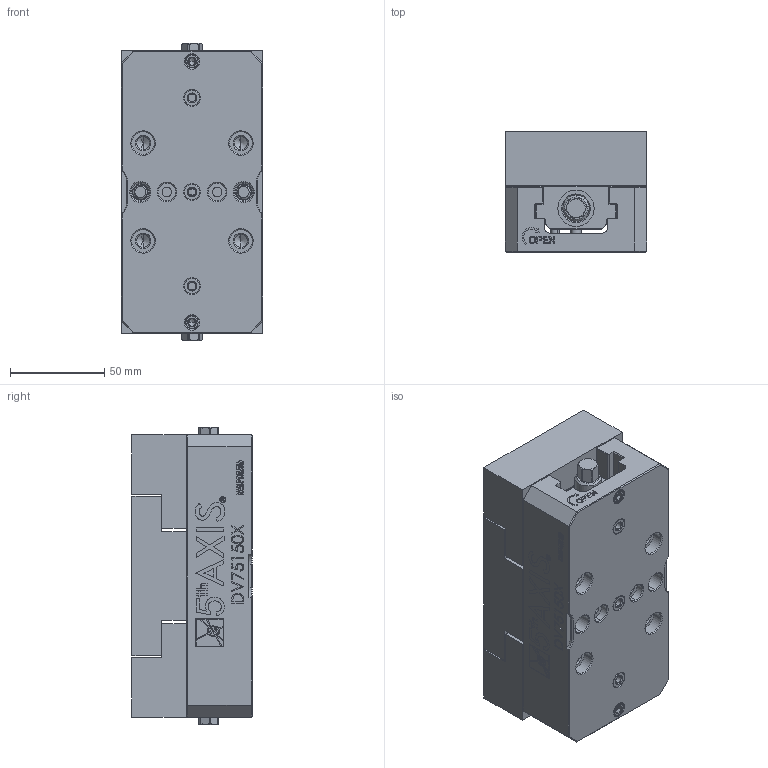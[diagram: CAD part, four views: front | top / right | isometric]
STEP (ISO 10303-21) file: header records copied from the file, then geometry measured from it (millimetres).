
FILE_DESCRIPTION (( 'STEP AP214' ), '1' );
FILE_NAME ('DV75150X-J2.STEP', '2019-05-06T17:21:26', ( '' ), ( '' ), 'SwSTEP 2.0', 'SolidWorks 2018', '' );
FILE_SCHEMA (( 'AUTOMOTIVE_DESIGN' ));
Length unit declared in the file: millimetre
Products named in the file (15): 0625X0625.DB_8491A358; V75150X-4; V75100X-2R_V75100X-2R; V75100X-2L_V75100X-2L; 01875.FP; V75150X-1_V75150X; DV75150X-J2; 76232_HK.76232; VAJ-DV75150-M; VAJ-DV75150-F; 76252_91290A210; C06-024-016_9657K267; M5x10.DP_HW.M5X10.DP; TIM-34_TIM-34; M8X12.EPSS_92905A312
Assembly tree (24 placements, depth 2):
  DV75150X-J2
    V75150X-1_V75150X
    01875.FP
    V75100X-2L_V75100X-2L
    V75100X-2R_V75100X-2R
    V75150X-4
    0625X0625.DB_8491A358  x2
    M8X12.EPSS_92905A312  x2
    TIM-34_TIM-34  x3
    M5x10.DP_HW.M5X10.DP  x2
    C06-024-016_9657K267
    76252_91290A210  x2
    VAJ-DV75150-F
    VAJ-DV75150-M  x2
    76232_HK.76232  x4
Bounding box: 75 x 64.13 x 158 mm (x, y, z)
Volume: 612316.1 mm3; surface area: 144382.8 mm2
Topology: 24 solids, 24 shells, 3098 faces, 8048 edges, 5195 vertices
Faces by surface type: plane 1403, cylinder 752, bspline 619, cone 308, torus 8, sphere 8
Entity records: 109151 total; most frequent: CARTESIAN_POINT 50023, ORIENTED_EDGE 13352, DIRECTION 9586, EDGE_CURVE 6676, VERTEX_POINT 4339, VECTOR 4316, LINE 4316, EDGE_LOOP 2843
